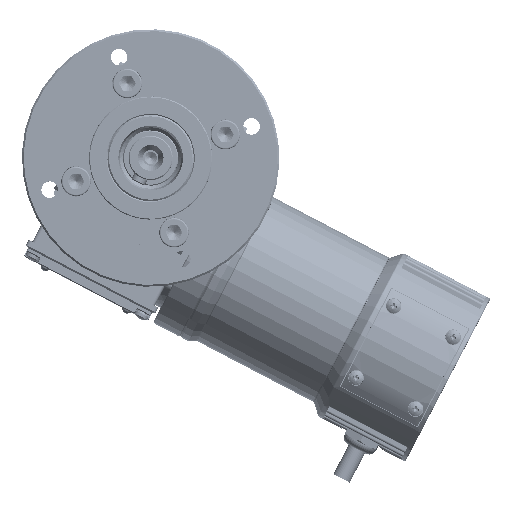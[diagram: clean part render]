
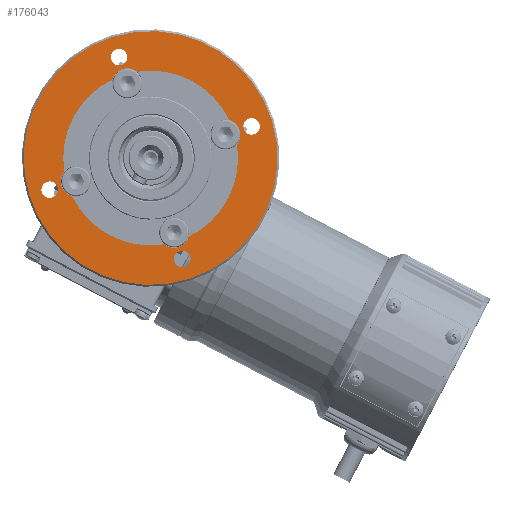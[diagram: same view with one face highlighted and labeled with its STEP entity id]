
A CAD part, top view. The second image highlights one B-rep face of the part: STEP entity #176043.
In plain terms, the highlighted planar face has unit normal (0, 0, 1).
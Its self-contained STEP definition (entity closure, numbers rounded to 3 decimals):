
#1185=CARTESIAN_POINT('',(186.681,-146.259,-62.819));
#1186=VERTEX_POINT('',#1185);
#1202=CARTESIAN_POINT('',(145.42,-14.572,-62.819));
#1203=VERTEX_POINT('',#1202);
#1210=CARTESIAN_POINT('',(166.051,-80.415,-62.819));
#1211=DIRECTION('',(0.,0.,-1.));
#1212=DIRECTION('',(0.299,-0.954,0.));
#1213=AXIS2_PLACEMENT_3D('',#1210,#1211,#1212);
#1214=CIRCLE('',#1213,69.0);
#1215=EDGE_CURVE('',#1203,#1186,#1214,.T.);
#1324=CARTESIAN_POINT('',(109.836,-93.313,-62.819));
#1325=VERTEX_POINT('',#1324);
#1341=CARTESIAN_POINT('',(112.526,-101.901,-62.819));
#1342=VERTEX_POINT('',#1341);
#1349=CARTESIAN_POINT('',(111.181,-97.607,-62.819));
#1350=DIRECTION('',(0.,0.,-1.0));
#1351=DIRECTION('',(-0.299,0.954,0.));
#1352=AXIS2_PLACEMENT_3D('',#1349,#1350,#1351);
#1353=CIRCLE('',#1352,4.5);
#1354=EDGE_CURVE('',#1325,#1342,#1353,.T.);
#1387=CARTESIAN_POINT('',(178.949,-136.63,-62.819));
#1388=VERTEX_POINT('',#1387);
#1404=CARTESIAN_POINT('',(187.537,-133.94,-62.819));
#1405=VERTEX_POINT('',#1404);
#1412=CARTESIAN_POINT('',(183.243,-135.285,-62.819));
#1413=DIRECTION('',(0.,0.,-1.0));
#1414=DIRECTION('',(-0.954,-0.299,0.));
#1415=AXIS2_PLACEMENT_3D('',#1412,#1413,#1414);
#1416=CIRCLE('',#1415,4.5);
#1417=EDGE_CURVE('',#1388,#1405,#1416,.T.);
#1450=CARTESIAN_POINT('',(153.153,-24.2,-62.819));
#1451=VERTEX_POINT('',#1450);
#1467=CARTESIAN_POINT('',(144.565,-26.891,-62.819));
#1468=VERTEX_POINT('',#1467);
#1475=CARTESIAN_POINT('',(148.859,-25.546,-62.819));
#1476=DIRECTION('',(0.,0.,-1.0));
#1477=DIRECTION('',(0.954,0.299,0.));
#1478=AXIS2_PLACEMENT_3D('',#1475,#1476,#1477);
#1479=CIRCLE('',#1478,4.5);
#1480=EDGE_CURVE('',#1451,#1468,#1479,.T.);
#1513=CARTESIAN_POINT('',(222.266,-67.517,-62.819));
#1514=VERTEX_POINT('',#1513);
#1530=CARTESIAN_POINT('',(219.575,-58.929,-62.819));
#1531=VERTEX_POINT('',#1530);
#1538=CARTESIAN_POINT('',(220.92,-63.223,-62.819));
#1539=DIRECTION('',(0.,0.,-1.0));
#1540=DIRECTION('',(0.299,-0.954,0.));
#1541=AXIS2_PLACEMENT_3D('',#1538,#1539,#1540);
#1542=CIRCLE('',#1541,4.5);
#1543=EDGE_CURVE('',#1514,#1531,#1542,.T.);
#175289=CARTESIAN_POINT('',(119.138,-87.863,-62.819));
#175290=VERTEX_POINT('',#175289);
#175308=CARTESIAN_POINT('',(145.398,-37.64,-62.819));
#175309=VERTEX_POINT('',#175308);
#175316=CARTESIAN_POINT('',(166.051,-80.415,-62.819));
#175317=DIRECTION('',(0.,0.,1.0));
#175318=DIRECTION('',(0.299,-0.954,0.));
#175319=AXIS2_PLACEMENT_3D('',#175316,#175317,#175318);
#175320=CIRCLE('',#175319,47.5);
#175321=EDGE_CURVE('',#175309,#175290,#175320,.T.);
#175362=CARTESIAN_POINT('',(212.963,-72.967,-62.819));
#175363=VERTEX_POINT('',#175362);
#175370=CARTESIAN_POINT('',(208.826,-59.762,-62.819));
#175371=VERTEX_POINT('',#175370);
#175372=CARTESIAN_POINT('',(206.607,-67.708,-62.819));
#175373=DIRECTION('',(0.,0.,-1.));
#175374=DIRECTION('',(0.299,-0.954,0.));
#175375=AXIS2_PLACEMENT_3D('',#175372,#175373,#175374);
#175376=CIRCLE('',#175375,8.25);
#175377=EDGE_CURVE('',#175371,#175363,#175376,.T.);
#175426=CARTESIAN_POINT('',(123.276,-101.068,-62.819));
#175427=VERTEX_POINT('',#175426);
#175434=CARTESIAN_POINT('',(173.499,-127.328,-62.819));
#175435=VERTEX_POINT('',#175434);
#175436=CARTESIAN_POINT('',(166.051,-80.415,-62.819));
#175437=DIRECTION('',(0.,0.,1.0));
#175438=DIRECTION('',(0.299,-0.954,0.));
#175439=AXIS2_PLACEMENT_3D('',#175436,#175437,#175438);
#175440=CIRCLE('',#175439,47.5);
#175441=EDGE_CURVE('',#175427,#175435,#175440,.T.);
#175466=CARTESIAN_POINT('',(158.603,-33.503,-62.819));
#175467=VERTEX_POINT('',#175466);
#175484=CARTESIAN_POINT('',(166.051,-80.415,-62.819));
#175485=DIRECTION('',(0.,0.,1.0));
#175486=DIRECTION('',(0.299,-0.954,0.));
#175487=AXIS2_PLACEMENT_3D('',#175484,#175485,#175486);
#175488=CIRCLE('',#175487,47.5);
#175489=EDGE_CURVE('',#175371,#175467,#175488,.T.);
#175501=CARTESIAN_POINT('',(186.704,-123.19,-62.819));
#175502=VERTEX_POINT('',#175501);
#175509=CARTESIAN_POINT('',(166.051,-80.415,-62.819));
#175510=DIRECTION('',(0.,0.,1.0));
#175511=DIRECTION('',(0.299,-0.954,0.));
#175512=AXIS2_PLACEMENT_3D('',#175509,#175510,#175511);
#175513=CIRCLE('',#175512,47.5);
#175514=EDGE_CURVE('',#175502,#175363,#175513,.T.);
#175626=CARTESIAN_POINT('',(153.344,-39.859,-62.819));
#175627=DIRECTION('',(0.,0.,-1.0));
#175628=DIRECTION('',(0.954,0.299,0.));
#175629=AXIS2_PLACEMENT_3D('',#175626,#175627,#175628);
#175630=CIRCLE('',#175629,8.25);
#175631=EDGE_CURVE('',#175309,#175467,#175630,.T.);
#175695=CARTESIAN_POINT('',(178.758,-120.971,-62.819));
#175696=DIRECTION('',(0.,0.,-1.0));
#175697=DIRECTION('',(-0.954,-0.299,0.));
#175698=AXIS2_PLACEMENT_3D('',#175695,#175696,#175697);
#175699=CIRCLE('',#175698,8.25);
#175700=EDGE_CURVE('',#175502,#175435,#175699,.T.);
#175764=CARTESIAN_POINT('',(125.495,-93.122,-62.819));
#175765=DIRECTION('',(0.,0.,-1.0));
#175766=DIRECTION('',(-0.299,0.954,0.));
#175767=AXIS2_PLACEMENT_3D('',#175764,#175765,#175766);
#175768=CIRCLE('',#175767,8.25);
#175769=EDGE_CURVE('',#175427,#175290,#175768,.T.);
#175831=CARTESIAN_POINT('',(220.92,-63.223,-62.819));
#175832=DIRECTION('',(0.,0.,-1.0));
#175833=DIRECTION('',(0.299,-0.954,0.));
#175834=AXIS2_PLACEMENT_3D('',#175831,#175832,#175833);
#175835=CIRCLE('',#175834,4.5);
#175836=EDGE_CURVE('',#1531,#1514,#175835,.T.);
#175876=CARTESIAN_POINT('',(148.859,-25.546,-62.819));
#175877=DIRECTION('',(0.,0.,-1.0));
#175878=DIRECTION('',(0.954,0.299,0.));
#175879=AXIS2_PLACEMENT_3D('',#175876,#175877,#175878);
#175880=CIRCLE('',#175879,4.5);
#175881=EDGE_CURVE('',#1468,#1451,#175880,.T.);
#175921=CARTESIAN_POINT('',(183.243,-135.285,-62.819));
#175922=DIRECTION('',(0.,0.,-1.0));
#175923=DIRECTION('',(-0.954,-0.299,0.));
#175924=AXIS2_PLACEMENT_3D('',#175921,#175922,#175923);
#175925=CIRCLE('',#175924,4.5);
#175926=EDGE_CURVE('',#1405,#1388,#175925,.T.);
#175966=CARTESIAN_POINT('',(111.181,-97.607,-62.819));
#175967=DIRECTION('',(0.,0.,-1.0));
#175968=DIRECTION('',(-0.299,0.954,0.));
#175969=AXIS2_PLACEMENT_3D('',#175966,#175967,#175968);
#175970=CIRCLE('',#175969,4.5);
#175971=EDGE_CURVE('',#1342,#1325,#175970,.T.);
#176002=CARTESIAN_POINT('',(164.148,-74.343,-62.819));
#176003=DIRECTION('',(0.,0.,-1.0));
#176004=DIRECTION('',(-0.299,0.954,0.));
#176005=AXIS2_PLACEMENT_3D('',#176002,#176003,#176004);
#176006=PLANE('',#176005);
#176007=ORIENTED_EDGE('',*,*,#1215,.F.);
#176008=CARTESIAN_POINT('',(166.051,-80.415,-62.819));
#176009=DIRECTION('',(0.,0.,-1.));
#176010=DIRECTION('',(0.299,-0.954,0.));
#176011=AXIS2_PLACEMENT_3D('',#176008,#176009,#176010);
#176012=CIRCLE('',#176011,69.0);
#176013=EDGE_CURVE('',#1186,#1203,#176012,.T.);
#176014=ORIENTED_EDGE('',*,*,#176013,.F.);
#176015=EDGE_LOOP('',(#176007,#176014));
#176016=FACE_OUTER_BOUND('',#176015,.T.);
#176017=ORIENTED_EDGE('',*,*,#175769,.T.);
#176018=ORIENTED_EDGE('',*,*,#175321,.F.);
#176019=ORIENTED_EDGE('',*,*,#175631,.T.);
#176020=ORIENTED_EDGE('',*,*,#175489,.F.);
#176021=ORIENTED_EDGE('',*,*,#175377,.T.);
#176022=ORIENTED_EDGE('',*,*,#175514,.F.);
#176023=ORIENTED_EDGE('',*,*,#175700,.T.);
#176024=ORIENTED_EDGE('',*,*,#175441,.F.);
#176025=EDGE_LOOP('',(#176017,#176018,#176019,#176020,#176021,#176022,#176023,#176024));
#176026=FACE_BOUND('',#176025,.T.);
#176027=ORIENTED_EDGE('',*,*,#1543,.T.);
#176028=ORIENTED_EDGE('',*,*,#175836,.T.);
#176029=EDGE_LOOP('',(#176027,#176028));
#176030=FACE_BOUND('',#176029,.T.);
#176031=ORIENTED_EDGE('',*,*,#1480,.T.);
#176032=ORIENTED_EDGE('',*,*,#175881,.T.);
#176033=EDGE_LOOP('',(#176031,#176032));
#176034=FACE_BOUND('',#176033,.T.);
#176035=ORIENTED_EDGE('',*,*,#1417,.T.);
#176036=ORIENTED_EDGE('',*,*,#175926,.T.);
#176037=EDGE_LOOP('',(#176035,#176036));
#176038=FACE_BOUND('',#176037,.T.);
#176039=ORIENTED_EDGE('',*,*,#1354,.T.);
#176040=ORIENTED_EDGE('',*,*,#175971,.T.);
#176041=EDGE_LOOP('',(#176039,#176040));
#176042=FACE_BOUND('',#176041,.T.);
#176043=ADVANCED_FACE('',(#176016,#176026,#176030,#176034,#176038,#176042),#176006,.F.);
